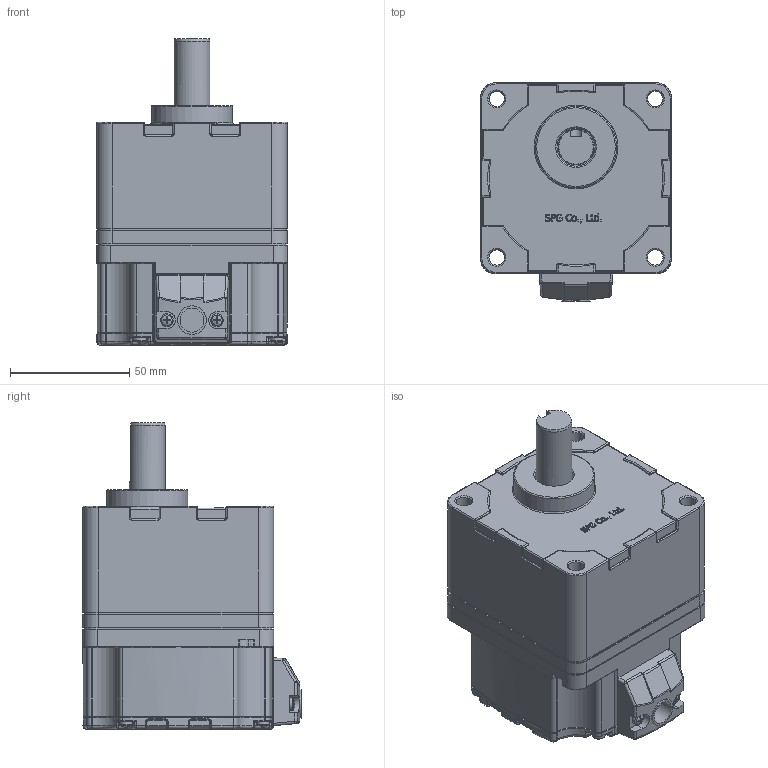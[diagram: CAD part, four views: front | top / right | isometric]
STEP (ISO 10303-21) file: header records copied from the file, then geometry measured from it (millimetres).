
FILE_DESCRIPTION((''),'2;1');
FILE_NAME('C:\Documents and Settings\Administrator\바탕 화면\BLDC 3D FILE\GEARED MOTOR\80-RATIO 200.stp','2014-06-19T16:07:47',('kdhkdh'),(''),'Autodesk Inventor 2011','Autodesk Inventor 2011','');
FILE_SCHEMA(('AUTOMOTIVE_DESIGN { 1 0 10303 214 1 1 1 1 }'));
Length unit declared in the file: millimetre
Products named in the file (1): 부품1
Bounding box: 80 x 91.5 x 128.5 mm (x, y, z)
Volume: 556879.6 mm3; surface area: 72605.8 mm2
Topology: 1 solids, 11 shells, 1291 faces, 3206 edges, 1912 vertices
Faces by surface type: cylinder 384, plane 356, bspline 243, torus 165, cone 93, sphere 50
Full cylindrical faces by diameter (mm): 2.729 x6, 3 x8, 3.5 x6, 4 x4, 4.3 x4, 5.3 x6, 5.72 x1, 6.5 x12, 7.5 x1, 8 x5, 10 x1, 12 x1, 15 x1, 16 x1, 18 x1, 34 x1, 61 x1, 73 x1, 77 x2
Entity records: 41506 total; most frequent: CARTESIAN_POINT 12979, ORIENTED_EDGE 5938, DIRECTION 5699, EDGE_CURVE 2969, AXIS2_PLACEMENT_3D 2291, VERTEX_POINT 1868, EDGE_LOOP 1484, FACE_OUTER_BOUND 1291
